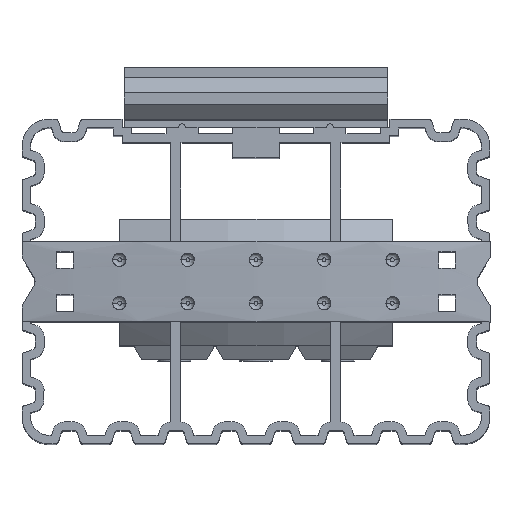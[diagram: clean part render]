
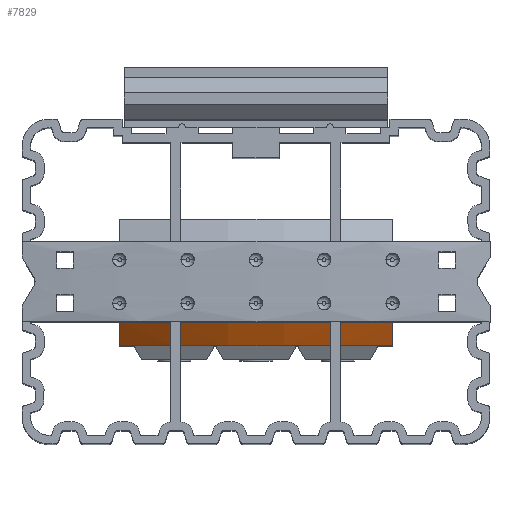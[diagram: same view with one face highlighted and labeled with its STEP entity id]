
A CAD part, top view. The second image highlights one B-rep face of the part: STEP entity #7829.
In plain terms, the highlighted conical face has half-angle 30 degrees and reference radius 54.531 mm.
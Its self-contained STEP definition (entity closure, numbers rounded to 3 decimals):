
#309 = EDGE_CURVE ( 'NONE', #20981, #9833, #7617, .T. ) ;
#1476 = DIRECTION ( 'NONE',  ( 0., 1., 0. ) ) ;
#3850 = CARTESIAN_POINT ( 'NONE',  ( 20.5, -9.5, -5.188 ) ) ;
#3919 = VERTEX_POINT ( 'NONE', #23479 ) ;
#4055 = EDGE_CURVE ( 'NONE', #22426, #3919, #16230, .T. ) ;
#5589 = AXIS2_PLACEMENT_3D ( 'NONE', #5678, #1476, #7527 ) ;
#5678 = CARTESIAN_POINT ( 'NONE',  ( 0., -6., -53.531 ) ) ;
#6331 = CARTESIAN_POINT ( 'NONE',  ( -20.5, -9.5, -5.188 ) ) ;
#6689 = ORIENTED_EDGE ( 'NONE', *, *, #21354, .F. ) ;
#7527 = DIRECTION ( 'NONE',  ( 0., 0., -1. ) ) ;
#7617 = CIRCLE ( 'NONE', #21415, 52.511 ) ;
#7700 = CARTESIAN_POINT ( 'NONE',  ( 20.5, -7.168, -3.728 ) ) ;
#7829 = ADVANCED_FACE ( 'NONE', ( #9467 ), #20584, .T. ) ;
#9196 = ORIENTED_EDGE ( 'NONE', *, *, #4055, .F. ) ;
#9467 = FACE_OUTER_BOUND ( 'NONE', #24048, .T. ) ;
#9833 = VERTEX_POINT ( 'NONE', #3850 ) ;
#10280 = CARTESIAN_POINT ( 'NONE',  ( -20.5, -6., -3. ) ) ;
#10672 = B_SPLINE_CURVE_WITH_KNOTS ( 'NONE', 3,
 ( #17095, #7700, #15243, #12258 ),
 .UNSPECIFIED., .F., .F.,
 ( 4, 4 ),
 ( 0.025, 0.029 ),
 .UNSPECIFIED. ) ;
#12258 = CARTESIAN_POINT ( 'NONE',  ( 20.5, -9.5, -5.188 ) ) ;
#12482 = CARTESIAN_POINT ( 'NONE',  ( 0., -9.5, -53.531 ) ) ;
#14328 = DIRECTION ( 'NONE',  ( 0., 0., 1. ) ) ;
#15243 = CARTESIAN_POINT ( 'NONE',  ( 20.5, -8.334, -4.457 ) ) ;
#15518 = DIRECTION ( 'NONE',  ( 0., 0., -1. ) ) ;
#16230 = CIRCLE ( 'NONE', #5589, 54.531 ) ;
#17095 = CARTESIAN_POINT ( 'NONE',  ( 20.5, -6., -3. ) ) ;
#17500 = CARTESIAN_POINT ( 'NONE',  ( 0., -6., -53.531 ) ) ;
#17578 = ORIENTED_EDGE ( 'NONE', *, *, #18883, .T. ) ;
#17855 = B_SPLINE_CURVE_WITH_KNOTS ( 'NONE', 3,
 ( #10280, #23492, #23251, #6331 ),
 .UNSPECIFIED., .F., .F.,
 ( 4, 4 ),
 ( 0., 0.004 ),
 .UNSPECIFIED. ) ;
#18044 = DIRECTION ( 'NONE',  ( 0., 1., 0. ) ) ;
#18883 = EDGE_CURVE ( 'NONE', #22426, #20981, #17855, .T. ) ;
#19699 = CARTESIAN_POINT ( 'NONE',  ( -20.5, -9.5, -5.188 ) ) ;
#20584 = CONICAL_SURFACE ( 'NONE', #24147, 54.531, 0.524 ) ;
#20981 = VERTEX_POINT ( 'NONE', #19699 ) ;
#21039 = CARTESIAN_POINT ( 'NONE',  ( -20.5, -6., -3. ) ) ;
#21354 = EDGE_CURVE ( 'NONE', #3919, #9833, #10672, .T. ) ;
#21415 = AXIS2_PLACEMENT_3D ( 'NONE', #12482, #18044, #14328 ) ;
#22426 = VERTEX_POINT ( 'NONE', #21039 ) ;
#22597 = ORIENTED_EDGE ( 'NONE', *, *, #309, .T. ) ;
#23169 = DIRECTION ( 'NONE',  ( 0., 1., 0. ) ) ;
#23251 = CARTESIAN_POINT ( 'NONE',  ( -20.5, -8.334, -4.457 ) ) ;
#23479 = CARTESIAN_POINT ( 'NONE',  ( 20.5, -6., -3. ) ) ;
#23492 = CARTESIAN_POINT ( 'NONE',  ( -20.5, -7.168, -3.728 ) ) ;
#24048 = EDGE_LOOP ( 'NONE', ( #9196, #17578, #22597, #6689 ) ) ;
#24147 = AXIS2_PLACEMENT_3D ( 'NONE', #17500, #23169, #15518 ) ;
